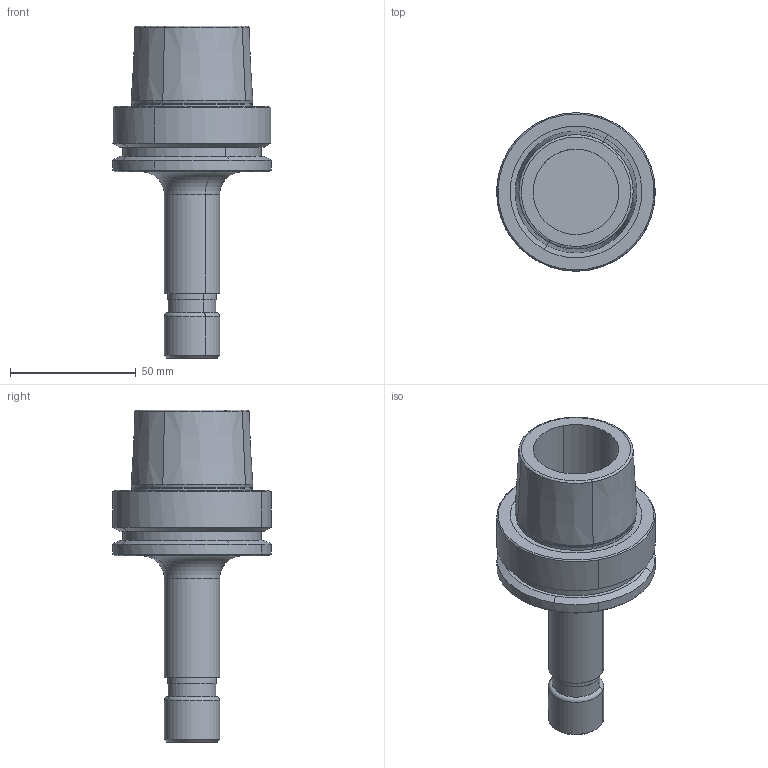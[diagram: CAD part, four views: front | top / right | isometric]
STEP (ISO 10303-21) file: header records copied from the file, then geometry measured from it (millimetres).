
FILE_DESCRIPTION(('CATIA V5 STEP','CAx-IF Rec.Pracs.--- Model Styling and Organization---1.2---2011-12-15'),'2;1');
FILE_NAME('\\nas01\drv1\utils\eitdev\rte\eit\transmagicconvert\db\out\635989033186774927\4561006-L-B.stp','2016-05-15T07:02:09+00:00',('none'),('none'),'CATIA Version 5 Release 21 SP 5 (IN-10)','CATIA V5 STEP AP214','none');
FILE_SCHEMA(('AUTOMOTIVE_DESIGN { 1 0 10303 214 1 1 1 1 }'));
Length unit declared in the file: millimetre
Products named in the file (1): HSK A 63 ER16X100 M
Bounding box: 62.98 x 63 x 132 mm (x, y, z)
Volume: 118039.5 mm3; surface area: 27748.1 mm2
Topology: 1 solids, 1 shells, 70 faces, 161 edges, 99 vertices
Faces by surface type: cone 27, cylinder 24, torus 10, plane 9
Entity records: 1985 total; most frequent: CARTESIAN_POINT 454, ORIENTED_EDGE 318, DIRECTION 271, AXIS2_PLACEMENT_3D 160, EDGE_CURVE 159, VERTEX_POINT 99, CIRCLE 98, EDGE_LOOP 78
